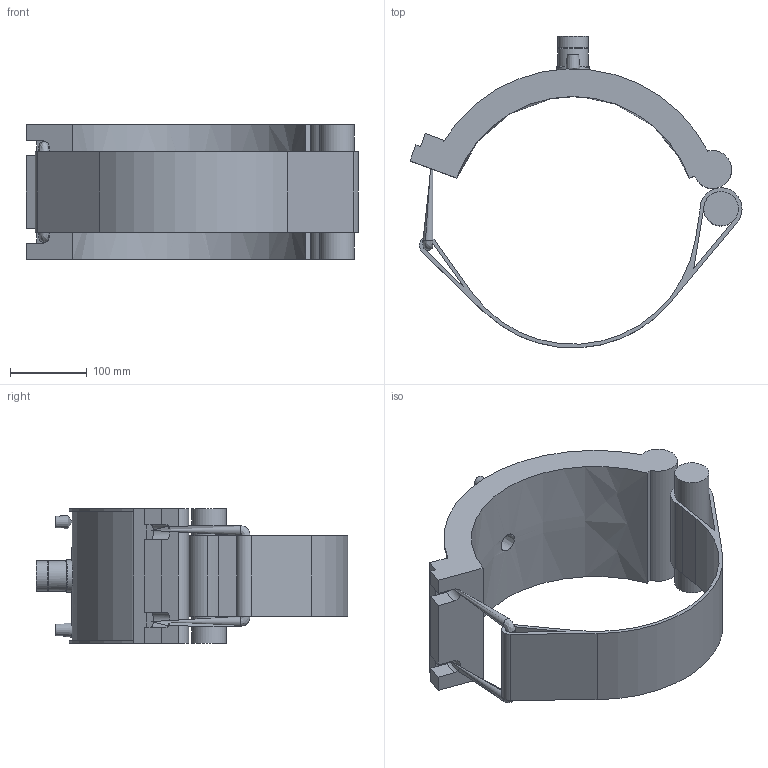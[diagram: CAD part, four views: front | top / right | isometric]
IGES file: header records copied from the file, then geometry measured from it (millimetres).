
Global section: file name: 5938B01312045.ipt; native system: Autodesk Inventor 2019; preprocessor: unknown; author: KIM; date: 20210830.101110; units: inch
Bounding box: 433.39 x 407.09 x 176.02 mm (x, y, z)
Volume: 3707118.3 mm3; surface area: 448279.4 mm2
Topology: 2 solids, 2 shells, 78 faces, 198 edges, 130 vertices
Faces by surface type: plane 42, cylinder 19, revolution 11, cone 5, bspline 1
Full cylindrical faces by diameter (mm): 4 x2, 12.936 x2, 38.378 x1, 39.378 x2, 42.407 x1, 45.027 x1
